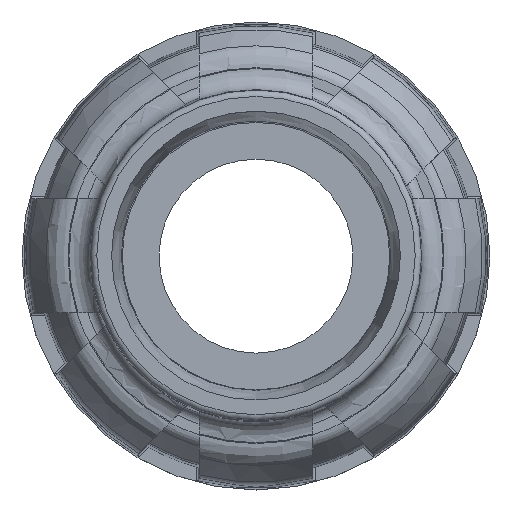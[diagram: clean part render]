
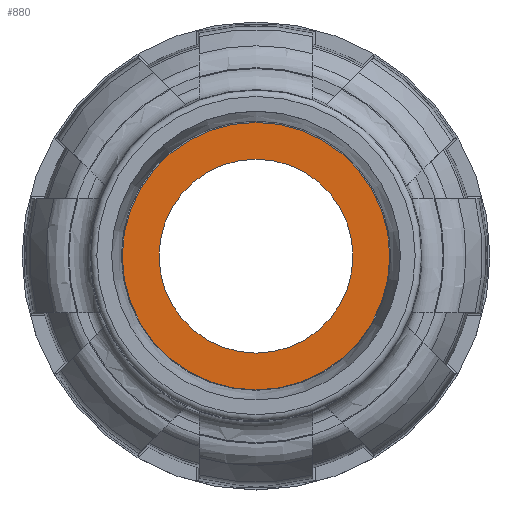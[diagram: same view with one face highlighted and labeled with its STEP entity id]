
A CAD part, top view. The second image highlights one B-rep face of the part: STEP entity #880.
In plain terms, the highlighted planar face has unit normal (0, 0, 1).
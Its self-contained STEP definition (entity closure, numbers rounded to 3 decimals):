
#880 = ADVANCED_FACE( '', ( #1814, #1815 ), #1816, .F. );
#1814 = FACE_OUTER_BOUND( '', #2769, .T. );
#1815 = FACE_BOUND( '', #2770, .T. );
#1816 = PLANE( '', #2771 );
#2769 = EDGE_LOOP( '', ( #5336 ) );
#2770 = EDGE_LOOP( '', ( #5337 ) );
#2771 = AXIS2_PLACEMENT_3D( '', #5338, #5339, #5340 );
#5336 = ORIENTED_EDGE( '', *, *, #5816, .T. );
#5337 = ORIENTED_EDGE( '', *, *, #5688, .F. );
#5338 = CARTESIAN_POINT( '', ( 31.5, 0., -53. ) );
#5339 = DIRECTION( '', ( 0., 0., -1. ) );
#5340 = DIRECTION( '', ( 0., -1., 0. ) );
#5688 = EDGE_CURVE( '', #6838, #6838, #6839, .F. );
#5816 = EDGE_CURVE( '', #7062, #7062, #7063, .F. );
#6838 = VERTEX_POINT( '', #8593 );
#6839 = CIRCLE( '', #8594, 22.974 );
#7062 = VERTEX_POINT( '', #9166 );
#7063 = CIRCLE( '', #9167, 31.7 );
#8593 = CARTESIAN_POINT( '', ( 0., 22.974, -53. ) );
#8594 = AXIS2_PLACEMENT_3D( '', #12338, #12339, #12340 );
#9166 = CARTESIAN_POINT( '', ( 0., 31.7, -53. ) );
#9167 = AXIS2_PLACEMENT_3D( '', #12457, #12458, #12459 );
#12338 = CARTESIAN_POINT( '', ( 0., 0., -53. ) );
#12339 = DIRECTION( '', ( 0., 0., -1. ) );
#12340 = DIRECTION( '', ( 0., 1., 0. ) );
#12457 = CARTESIAN_POINT( '', ( 0., 0., -53. ) );
#12458 = DIRECTION( '', ( 0., 0., -1. ) );
#12459 = DIRECTION( '', ( 0., 1., 0. ) );
